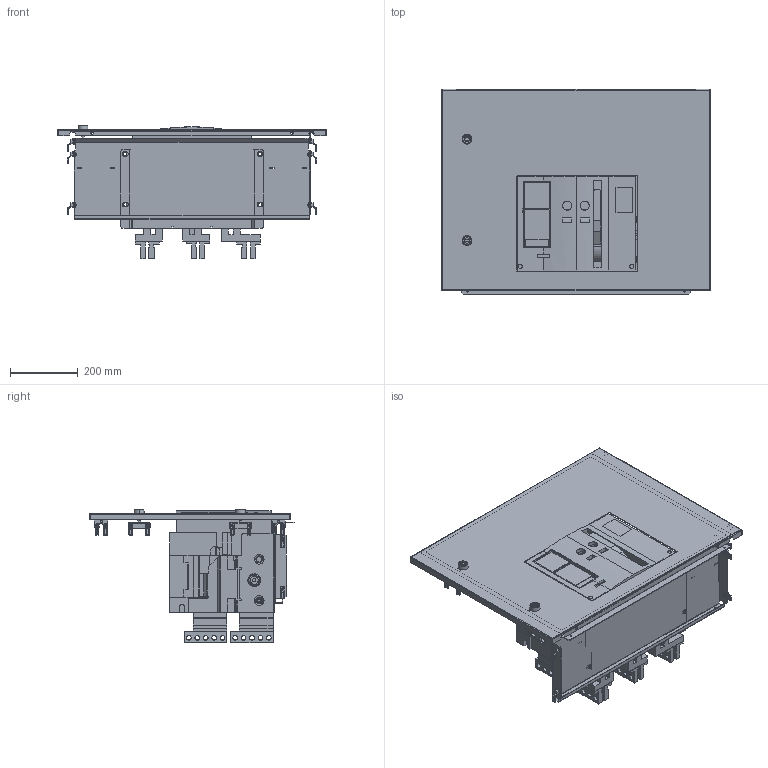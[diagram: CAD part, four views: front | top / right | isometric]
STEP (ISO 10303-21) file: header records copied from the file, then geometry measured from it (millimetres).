
FILE_DESCRIPTION(('CAx-IF Rec.Pracs.---Model Styling and Organization---1.2---2011-12-15','CAx-IF Rec.Pracs.---Geometric and Assembly Validation Properties---4.1---2014-06-16','CAx-IF Rec.Pracs.---PMI Polyline Presentation---2.0---2013-05-24'),'2;1');
FILE_NAME('R5PKEB7V81125.stp','2021-07-29T02:45:11+03:00',(''),(''),'STEP Interface 4.4 by CT CoreTechnologie','3D_Evolution4.4 by CT CoreTechnologie','');
FILE_SCHEMA(('AUTOMOTIVE_DESIGN { 1 0 10303 214 1 1 1 1 }'));
Length unit declared in the file: millimetre
Products named in the file (1): R5PKEB7V81125
Bounding box: 794 x 607.5 x 396 mm (x, y, z)
Surface area: 4039277.8 mm2 (no closed solid volume)
Topology: 0 solids, 101 shells, 5152 faces, 14145 edges, 9227 vertices
Faces by surface type: plane 2874, cylinder 1764, bspline 514
Entity records: 177099 total; most frequent: CARTESIAN_POINT 44230, ORIENTED_EDGE 28154, DIRECTION 27199, EDGE_CURVE 14080, VECTOR 9563, LINE 9563, VERTEX_POINT 9241, AXIS2_PLACEMENT_3D 8818
